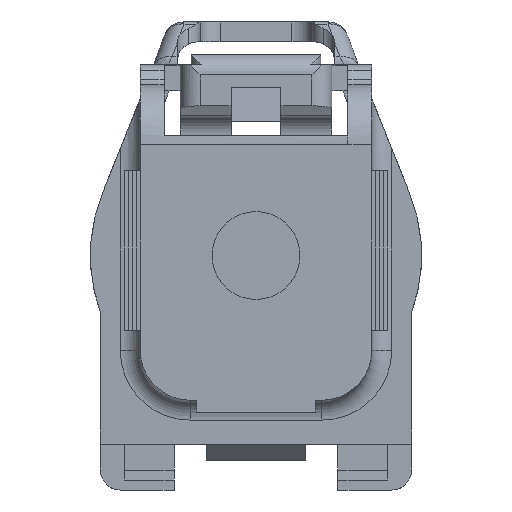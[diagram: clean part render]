
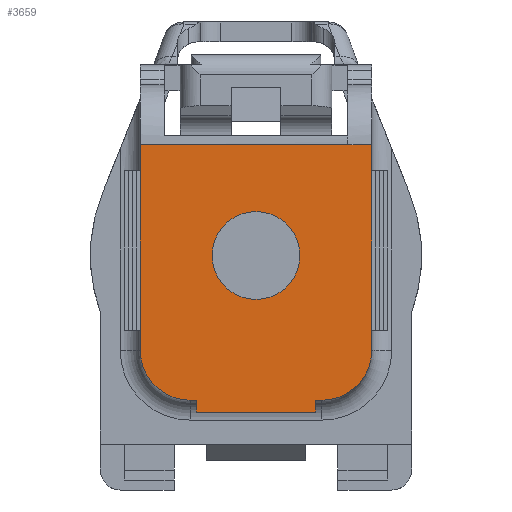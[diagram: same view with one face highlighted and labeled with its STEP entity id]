
A CAD part, left-side view. The second image highlights one B-rep face of the part: STEP entity #3659.
In plain terms, the highlighted planar face has unit normal (-1, 0, 0).
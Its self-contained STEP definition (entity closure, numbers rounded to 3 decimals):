
#1759=AXIS2_PLACEMENT_3D('Circle Axis2P3D',#1757,#1758,$) ;
#1785=AXIS2_PLACEMENT_3D('Circle Axis2P3D',#1783,#1784,$) ;
#2721=AXIS2_PLACEMENT_3D('Circle Axis2P3D',#2719,#2720,$) ;
#3203=AXIS2_PLACEMENT_3D('Circle Axis2P3D',#3201,#3202,$) ;
#3614=AXIS2_PLACEMENT_3D('Plane Axis2P3D',#3611,#3612,#3613) ;
#1620=CARTESIAN_POINT('Line Origine',(-11.3,0.,-7.85)) ;
#1624=CARTESIAN_POINT('Vertex',(-11.3,-3.,-7.85)) ;
#1626=CARTESIAN_POINT('Vertex',(-11.3,3.,-7.85)) ;
#1651=CARTESIAN_POINT('Line Origine',(-11.3,-3.,-7.55)) ;
#1655=CARTESIAN_POINT('Vertex',(-11.3,-3.,-7.25)) ;
#1689=CARTESIAN_POINT('Line Origine',(-11.3,3.,-7.55)) ;
#1693=CARTESIAN_POINT('Vertex',(-11.3,3.,-7.25)) ;
#1721=CARTESIAN_POINT('Vertex',(-11.3,-3.3,-7.25)) ;
#1724=CARTESIAN_POINT('Line Origine',(-11.3,-3.15,-7.25)) ;
#1729=CARTESIAN_POINT('Line Origine',(-11.3,3.15,-7.25)) ;
#1733=CARTESIAN_POINT('Vertex',(-11.3,3.3,-7.25)) ;
#1757=CARTESIAN_POINT('Axis2P3D Location',(-11.3,0.,0.)) ;
#1761=CARTESIAN_POINT('Vertex',(-11.3,-2.2,0.)) ;
#1763=CARTESIAN_POINT('Vertex',(-11.3,2.2,0.)) ;
#1783=CARTESIAN_POINT('Axis2P3D Location',(-11.3,0.,0.)) ;
#2719=CARTESIAN_POINT('Axis2P3D Location',(-11.3,3.3,-4.75)) ;
#2723=CARTESIAN_POINT('Vertex',(-11.3,5.8,-4.75)) ;
#3198=CARTESIAN_POINT('Vertex',(-11.3,-5.8,-4.75)) ;
#3201=CARTESIAN_POINT('Axis2P3D Location',(-11.3,-3.3,-4.75)) ;
#3611=CARTESIAN_POINT('Axis2P3D Location',(-11.3,0.,-7.25)) ;
#3616=CARTESIAN_POINT('Line Origine',(-11.3,0.6,5.55)) ;
#3620=CARTESIAN_POINT('Vertex',(-11.3,-4.6,5.55)) ;
#3622=CARTESIAN_POINT('Vertex',(-11.3,5.8,5.55)) ;
#3625=CARTESIAN_POINT('Line Origine',(-11.3,5.8,0.4)) ;
#3630=CARTESIAN_POINT('Line Origine',(-11.3,-5.8,0.4)) ;
#3634=CARTESIAN_POINT('Vertex',(-11.3,-5.8,5.55)) ;
#3637=CARTESIAN_POINT('Line Origine',(-11.3,-5.2,5.55)) ;
#1621=DIRECTION('Vector Direction',(0.,1.,0.)) ;
#1652=DIRECTION('Vector Direction',(0.,0.,-1.)) ;
#1690=DIRECTION('Vector Direction',(0.,0.,-1.)) ;
#1725=DIRECTION('Vector Direction',(0.,1.,0.)) ;
#1730=DIRECTION('Vector Direction',(0.,1.,0.)) ;
#1758=DIRECTION('Axis2P3D Direction',(-1.,0.,0.)) ;
#1784=DIRECTION('Axis2P3D Direction',(-1.,0.,0.)) ;
#2720=DIRECTION('Axis2P3D Direction',(1.,0.,0.)) ;
#3202=DIRECTION('Axis2P3D Direction',(1.,0.,0.)) ;
#3612=DIRECTION('Axis2P3D Direction',(-1.,0.,-0.)) ;
#3613=DIRECTION('Axis2P3D XDirection',(-0.,0.,1.)) ;
#3617=DIRECTION('Vector Direction',(0.,1.,0.)) ;
#3626=DIRECTION('Vector Direction',(0.,0.,1.)) ;
#3631=DIRECTION('Vector Direction',(0.,0.,1.)) ;
#3638=DIRECTION('Vector Direction',(0.,1.,0.)) ;
#1622=VECTOR('Line Direction',#1621,1.) ;
#1653=VECTOR('Line Direction',#1652,1.) ;
#1691=VECTOR('Line Direction',#1690,1.) ;
#1726=VECTOR('Line Direction',#1725,1.) ;
#1731=VECTOR('Line Direction',#1730,1.) ;
#3618=VECTOR('Line Direction',#3617,1.) ;
#3627=VECTOR('Line Direction',#3626,1.) ;
#3632=VECTOR('Line Direction',#3631,1.) ;
#3639=VECTOR('Line Direction',#3638,1.) ;
#3643=ORIENTED_EDGE('',*,*,#3624,.T.) ;
#3644=ORIENTED_EDGE('',*,*,#3629,.F.) ;
#3645=ORIENTED_EDGE('',*,*,#2725,.F.) ;
#3646=ORIENTED_EDGE('',*,*,#1735,.F.) ;
#3647=ORIENTED_EDGE('',*,*,#1695,.T.) ;
#3648=ORIENTED_EDGE('',*,*,#1628,.F.) ;
#3649=ORIENTED_EDGE('',*,*,#1657,.F.) ;
#3650=ORIENTED_EDGE('',*,*,#1728,.F.) ;
#3651=ORIENTED_EDGE('',*,*,#3205,.F.) ;
#3652=ORIENTED_EDGE('',*,*,#3636,.T.) ;
#3653=ORIENTED_EDGE('',*,*,#3641,.T.) ;
#3656=ORIENTED_EDGE('',*,*,#1765,.F.) ;
#3657=ORIENTED_EDGE('',*,*,#1787,.F.) ;
#3658=FACE_BOUND('',#3655,.T.) ;
#3659=ADVANCED_FACE('\X2\FF8EFF9EFF83FF9EFF68FF70\X0\.3',(#3654,#3658),#3615,.T.) ;
#1760=CIRCLE('generated circle',#1759,2.2) ;
#1786=CIRCLE('generated circle',#1785,2.2) ;
#2722=CIRCLE('generated circle',#2721,2.5) ;
#3204=CIRCLE('generated circle',#3203,2.5) ;
#1628=EDGE_CURVE('',#1625,#1627,#1623,.T.) ;
#1657=EDGE_CURVE('',#1656,#1625,#1654,.T.) ;
#1695=EDGE_CURVE('',#1694,#1627,#1692,.T.) ;
#1728=EDGE_CURVE('',#1722,#1656,#1727,.T.) ;
#1735=EDGE_CURVE('',#1694,#1734,#1732,.T.) ;
#1765=EDGE_CURVE('',#1762,#1764,#1760,.T.) ;
#1787=EDGE_CURVE('',#1764,#1762,#1786,.T.) ;
#2725=EDGE_CURVE('',#1734,#2724,#2722,.T.) ;
#3205=EDGE_CURVE('',#3199,#1722,#3204,.T.) ;
#3624=EDGE_CURVE('',#3621,#3623,#3619,.T.) ;
#3629=EDGE_CURVE('',#2724,#3623,#3628,.T.) ;
#3636=EDGE_CURVE('',#3199,#3635,#3633,.T.) ;
#3641=EDGE_CURVE('',#3635,#3621,#3640,.T.) ;
#3642=EDGE_LOOP('',(#3643,#3644,#3645,#3646,#3647,#3648,#3649,#3650,#3651,#3652,#3653)) ;
#3655=EDGE_LOOP('',(#3656,#3657)) ;
#3654=FACE_OUTER_BOUND('',#3642,.T.) ;
#1623=LINE('Line',#1620,#1622) ;
#1654=LINE('Line',#1651,#1653) ;
#1692=LINE('Line',#1689,#1691) ;
#1727=LINE('Line',#1724,#1726) ;
#1732=LINE('Line',#1729,#1731) ;
#3619=LINE('Line',#3616,#3618) ;
#3628=LINE('Line',#3625,#3627) ;
#3633=LINE('Line',#3630,#3632) ;
#3640=LINE('Line',#3637,#3639) ;
#3615=PLANE('',#3614) ;
#1625=VERTEX_POINT('',#1624) ;
#1627=VERTEX_POINT('',#1626) ;
#1656=VERTEX_POINT('',#1655) ;
#1694=VERTEX_POINT('',#1693) ;
#1722=VERTEX_POINT('',#1721) ;
#1734=VERTEX_POINT('',#1733) ;
#1762=VERTEX_POINT('',#1761) ;
#1764=VERTEX_POINT('',#1763) ;
#2724=VERTEX_POINT('',#2723) ;
#3199=VERTEX_POINT('',#3198) ;
#3621=VERTEX_POINT('',#3620) ;
#3623=VERTEX_POINT('',#3622) ;
#3635=VERTEX_POINT('',#3634) ;
